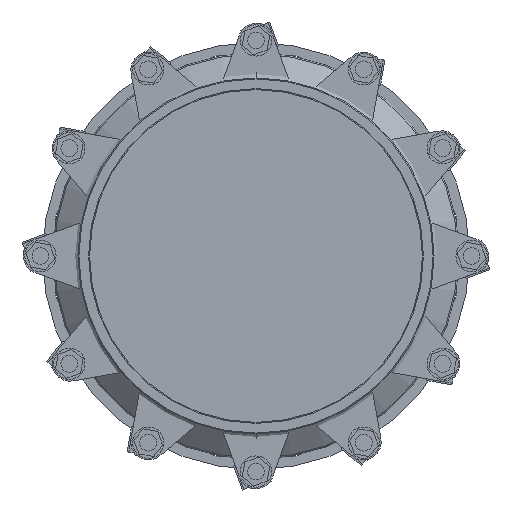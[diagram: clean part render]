
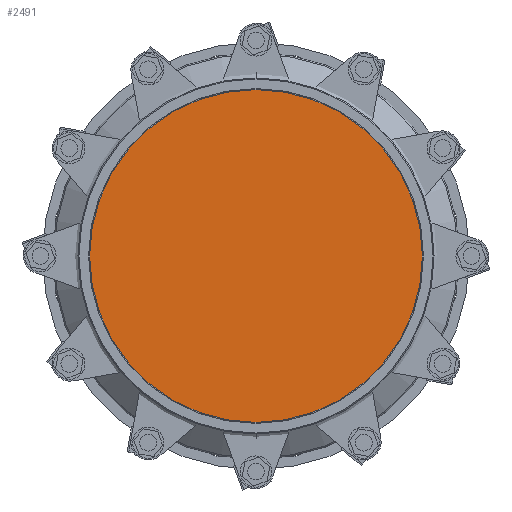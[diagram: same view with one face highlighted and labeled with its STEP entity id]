
A CAD part, left-side view. The second image highlights one B-rep face of the part: STEP entity #2491.
In plain terms, the highlighted planar face has unit normal (-1, 0, 0).
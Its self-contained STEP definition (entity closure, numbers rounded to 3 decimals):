
#2491=ADVANCED_FACE('',(#4895),#4896,.T.);
#4895=FACE_OUTER_BOUND('',#7721,.T.);
#4896=PLANE('',#7722);
#7721=EDGE_LOOP('',(#12741,#12742));
#7722=AXIS2_PLACEMENT_3D('',#12743,#12744,#12745);
#12741=ORIENTED_EDGE('',*,*,#15492,.T.);
#12742=ORIENTED_EDGE('',*,*,#16726,.T.);
#12743=CARTESIAN_POINT('',(-297.5,-183.603,105.999));
#12744=DIRECTION('',(-1.0,0.0,0.));
#12745=DIRECTION('',(0.,0.0,1.0));
#15492=EDGE_CURVE('',#18223,#18228,#18230,.T.);
#16726=EDGE_CURVE('',#18228,#18223,#20228,.T.);
#18223=VERTEX_POINT('',#22104);
#18228=VERTEX_POINT('',#22110);
#18230=CIRCLE('',#22113,209.5);
#20228=CIRCLE('',#24807,209.5);
#22104=CARTESIAN_POINT('',(-297.5,-183.603,-103.501));
#22110=CARTESIAN_POINT('',(-297.5,-183.603,315.499));
#22113=AXIS2_PLACEMENT_3D('',#26909,#26910,#26911);
#24807=AXIS2_PLACEMENT_3D('',#28373,#28374,#28375);
#26909=CARTESIAN_POINT('',(-297.5,-183.603,105.999));
#26910=DIRECTION('',(-1.0,0.0,0.));
#26911=DIRECTION('',(0.,0.0,-1.0));
#28373=CARTESIAN_POINT('',(-297.5,-183.603,105.999));
#28374=DIRECTION('',(-1.0,0.0,0.));
#28375=DIRECTION('',(0.,0.0,-1.0));
